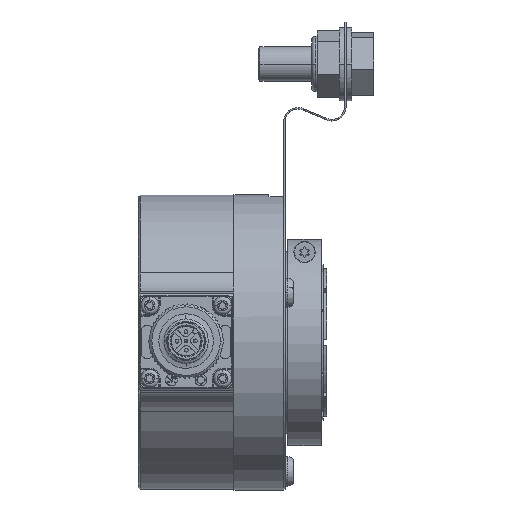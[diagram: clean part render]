
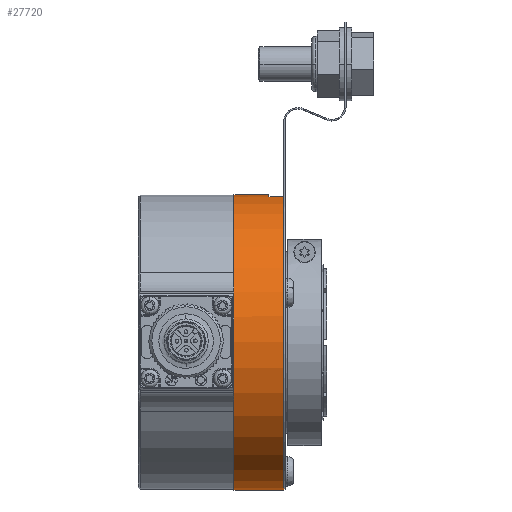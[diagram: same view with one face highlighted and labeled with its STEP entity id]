
A CAD part, top view. The second image highlights one B-rep face of the part: STEP entity #27720.
In plain terms, the highlighted cylindrical face has radius 40.075 mm (diameter 80.15 mm), a partial arc.
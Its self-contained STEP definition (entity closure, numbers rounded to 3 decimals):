
#12 = VECTOR ( 'NONE', #3603, 1000. ) ;
#248 = VERTEX_POINT ( 'NONE', #46217 ) ;
#302 = ORIENTED_EDGE ( 'NONE', *, *, #3218, .F. ) ;
#1912 = CYLINDRICAL_SURFACE ( 'NONE', #38849, 40.075 ) ;
#2703 = LINE ( 'NONE', #20789, #52167 ) ;
#3218 = EDGE_CURVE ( 'NONE', #23585, #10729, #30403, .T. ) ;
#3603 = DIRECTION ( 'NONE',  ( -1., 0., 0. ) ) ;
#5590 = EDGE_LOOP ( 'NONE', ( #7908, #29681, #11139, #16144, #16076, #302 ) ) ;
#7908 = ORIENTED_EDGE ( 'NONE', *, *, #14898, .F. ) ;
#8168 = CARTESIAN_POINT ( 'NONE',  ( 0., 0., 0. ) ) ;
#10483 = DIRECTION ( 'NONE',  ( 0., 1., 0. ) ) ;
#10729 = VERTEX_POINT ( 'NONE', #10803 ) ;
#10803 = CARTESIAN_POINT ( 'NONE',  ( 0., 40.075, 0. ) ) ;
#11139 = ORIENTED_EDGE ( 'NONE', *, *, #47559, .T. ) ;
#12736 = VERTEX_POINT ( 'NONE', #23369 ) ;
#13561 = CARTESIAN_POINT ( 'NONE',  ( 0., -40.075, 0. ) ) ;
#13947 = CARTESIAN_POINT ( 'NONE',  ( -12.775, 39.468, 6.95 ) ) ;
#14442 = AXIS2_PLACEMENT_3D ( 'NONE', #36853, #14596, #27067 ) ;
#14596 = DIRECTION ( 'NONE',  ( -1., 0., 0. ) ) ;
#14898 = EDGE_CURVE ( 'NONE', #248, #23585, #17626, .T. ) ;
#15519 = VECTOR ( 'NONE', #32191, 1000. ) ;
#15939 = EDGE_CURVE ( 'NONE', #248, #24498, #41402, .T. ) ;
#16076 = ORIENTED_EDGE ( 'NONE', *, *, #57326, .T. ) ;
#16144 = ORIENTED_EDGE ( 'NONE', *, *, #24523, .T. ) ;
#17626 = LINE ( 'NONE', #41370, #15519 ) ;
#18402 = LINE ( 'NONE', #13947, #12 ) ;
#20789 = CARTESIAN_POINT ( 'NONE',  ( -12.775, 40.075, 0. ) ) ;
#23125 = DIRECTION ( 'NONE',  ( -1., 0., 0. ) ) ;
#23369 = CARTESIAN_POINT ( 'NONE',  ( 9.5, 40.075, 0. ) ) ;
#23585 = VERTEX_POINT ( 'NONE', #13561 ) ;
#24029 = DIRECTION ( 'NONE',  ( 0., 1., 0. ) ) ;
#24498 = VERTEX_POINT ( 'NONE', #50774 ) ;
#24523 = EDGE_CURVE ( 'NONE', #57490, #12736, #58013, .T. ) ;
#27067 = DIRECTION ( 'NONE',  ( 0., 1., 0. ) ) ;
#27573 = AXIS2_PLACEMENT_3D ( 'NONE', #8168, #56862, #57735 ) ;
#27720 = ADVANCED_FACE ( 'NONE', ( #38669 ), #1912, .T. ) ;
#29681 = ORIENTED_EDGE ( 'NONE', *, *, #15939, .T. ) ;
#30403 = CIRCLE ( 'NONE', #27573, 40.075 ) ;
#32191 = DIRECTION ( 'NONE',  ( -1., 0., 0. ) ) ;
#36853 = CARTESIAN_POINT ( 'NONE',  ( 9.5, 0., 0. ) ) ;
#38669 = FACE_OUTER_BOUND ( 'NONE', #5590, .T. ) ;
#38849 = AXIS2_PLACEMENT_3D ( 'NONE', #55586, #51136, #10483 ) ;
#38890 = DIRECTION ( 'NONE',  ( -1., 0., 0. ) ) ;
#41370 = CARTESIAN_POINT ( 'NONE',  ( -12.775, -40.075, 0. ) ) ;
#41402 = CIRCLE ( 'NONE', #48955, 40.075 ) ;
#46217 = CARTESIAN_POINT ( 'NONE',  ( 13.5, -40.075, 0. ) ) ;
#47559 = EDGE_CURVE ( 'NONE', #24498, #57490, #18402, .T. ) ;
#48955 = AXIS2_PLACEMENT_3D ( 'NONE', #56051, #23125, #24029 ) ;
#50696 = CARTESIAN_POINT ( 'NONE',  ( 9.5, 39.468, 6.95 ) ) ;
#50774 = CARTESIAN_POINT ( 'NONE',  ( 13.5, 39.468, 6.95 ) ) ;
#51136 = DIRECTION ( 'NONE',  ( -1., 0., 0. ) ) ;
#52167 = VECTOR ( 'NONE', #38890, 1000. ) ;
#55586 = CARTESIAN_POINT ( 'NONE',  ( -12.775, 0., 0. ) ) ;
#56051 = CARTESIAN_POINT ( 'NONE',  ( 13.5, 0., 0. ) ) ;
#56862 = DIRECTION ( 'NONE',  ( -1., 0., 0. ) ) ;
#57326 = EDGE_CURVE ( 'NONE', #12736, #10729, #2703, .T. ) ;
#57490 = VERTEX_POINT ( 'NONE', #50696 ) ;
#57735 = DIRECTION ( 'NONE',  ( 0., 1., 0. ) ) ;
#58013 = CIRCLE ( 'NONE', #14442, 40.075 ) ;
